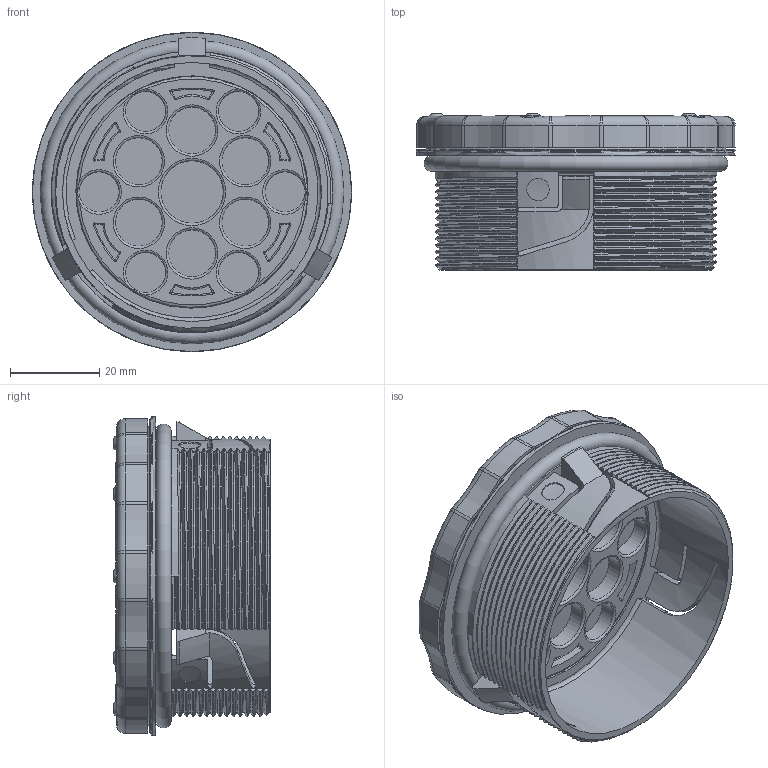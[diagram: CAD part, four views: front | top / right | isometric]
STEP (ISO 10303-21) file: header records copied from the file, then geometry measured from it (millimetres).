
FILE_DESCRIPTION(/* description */ (''),/* implementation_level */ '2;1');
FILE_NAME(/* name */ 'C:\SapWorkDir\Inventor\MP1\ConvertTempPath\87_16_121509_00_A_220622_KDP-R M63-13 ZSB.stp',/* time_stamp */ '2022-06-23T08:01:26+02:00',/* author */ ('BAUER'),/* organization */ (''),/* preprocessor_version */ 'ST-DEVELOPER v16.13',/* originating_system */ 'Autodesk Inventor 2018',/* authorisation */ '');
FILE_SCHEMA (('AUTOMOTIVE_DESIGN { 1 0 10303 214 3 1 1 }'));
Products named in the file (7): 121509; Gehäuse; 87.16.41.1; 87.16.41.2; 87.16.41.3; 121501; 87.16.43.6
Assembly tree (6 placements, depth 2):
  121509
    Gehäuse
    87.16.41.1
    87.16.41.2
    87.16.41.3
    121501
    87.16.43.6
Bounding box: 71.4 x 35 x 71.4 mm (x, y, z)
Volume: 43793 mm3; surface area: 49266.9 mm2
Topology: 6 solids, 6 shells, 1990 faces, 5159 edges, 3271 vertices
Faces by surface type: plane 604, cylinder 497, bspline 490, torus 256, sphere 113, cone 30
Full cylindrical faces by diameter (mm): 0.049 x1, 2 x12, 3.8 x11, 4 x2, 5 x5, 5.4 x1, 5.6 x3, 6.2 x6, 6.4 x3, 7.757 x2, 8 x6, 9 x6, 9.2 x6, 9.5 x6, 9.8 x6, 10 x6, 10.5 x6, 10.7 x6, 11.5 x6, 11.6 x6, 13 x1, 14 x1, 14.2 x1, 15 x1, 15.1 x1, 54.9 x1, 55.7 x2, 58 x1, 59 x2, 59.2 x1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
Entity records: 68657 total; most frequent: CARTESIAN_POINT 23341, ORIENTED_EDGE 9676, DIRECTION 8474, EDGE_CURVE 4838, AXIS2_PLACEMENT_3D 3249, VERTEX_POINT 3202, EDGE_LOOP 2414, FACE_OUTER_BOUND 1989
